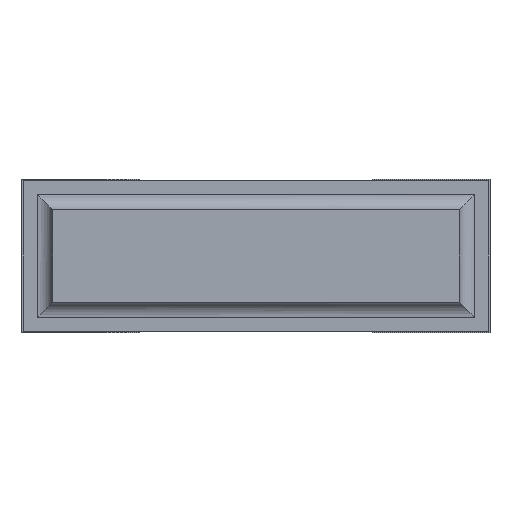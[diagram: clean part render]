
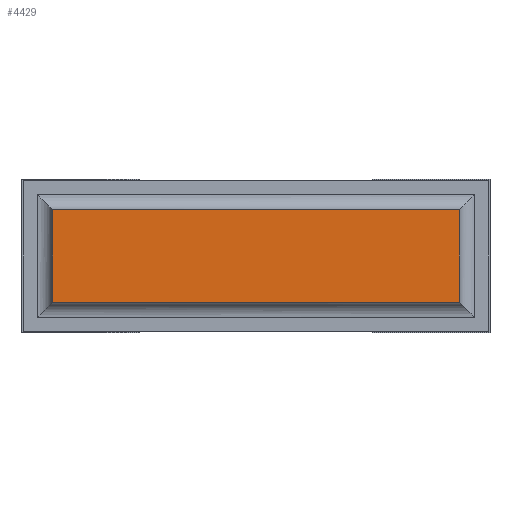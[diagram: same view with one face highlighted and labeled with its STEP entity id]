
A CAD part, front view. The second image highlights one B-rep face of the part: STEP entity #4429.
In plain terms, the highlighted planar face has unit normal (0, -1, 0).
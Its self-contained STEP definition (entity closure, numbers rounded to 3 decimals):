
#227=FACE_OUTER_BOUND('',#501,.T.);
#501=EDGE_LOOP('',(#3171,#3172,#3173,#3174));
#846=LINE('',#6494,#1418);
#852=LINE('',#6510,#1424);
#855=LINE('',#6519,#1427);
#857=LINE('',#6523,#1429);
#1418=VECTOR('',#5232,10.);
#1424=VECTOR('',#5246,10.);
#1427=VECTOR('',#5261,10.);
#1429=VECTOR('',#5267,10.);
#1955=VERTEX_POINT('',#6491);
#1956=VERTEX_POINT('',#6493);
#1960=VERTEX_POINT('',#6504);
#1962=VERTEX_POINT('',#6508);
#2394=EDGE_CURVE('',#1956,#1955,#846,.T.);
#2402=EDGE_CURVE('',#1960,#1962,#852,.T.);
#2407=EDGE_CURVE('',#1955,#1960,#855,.T.);
#2409=EDGE_CURVE('',#1962,#1956,#857,.T.);
#3171=ORIENTED_EDGE('',*,*,#2394,.T.);
#3172=ORIENTED_EDGE('',*,*,#2407,.T.);
#3173=ORIENTED_EDGE('',*,*,#2402,.T.);
#3174=ORIENTED_EDGE('',*,*,#2409,.T.);
#4205=PLANE('',#4743);
#4429=ADVANCED_FACE('',(#227),#4205,.T.);
#4743=AXIS2_PLACEMENT_3D('',#6526,#5271,#5272);
#5232=DIRECTION('',(0.,0.,-1.));
#5246=DIRECTION('',(0.,0.,1.));
#5261=DIRECTION('',(1.,0.,0.));
#5267=DIRECTION('',(-1.,0.,0.));
#5271=DIRECTION('center_axis',(0.,-1.,0.));
#5272=DIRECTION('ref_axis',(0.,0.,-1.));
#6491=CARTESIAN_POINT('',(0.1,0.,0.1));
#6493=CARTESIAN_POINT('',(0.1,0.,0.4));
#6494=CARTESIAN_POINT('',(0.1,0.,0.4));
#6504=CARTESIAN_POINT('',(1.42,0.,0.1));
#6508=CARTESIAN_POINT('',(1.42,0.,0.4));
#6510=CARTESIAN_POINT('',(1.42,0.,0.1));
#6519=CARTESIAN_POINT('',(0.1,0.,0.1));
#6523=CARTESIAN_POINT('',(1.42,0.,0.4));
#6526=CARTESIAN_POINT('Origin',(0.1,0.,0.25));
